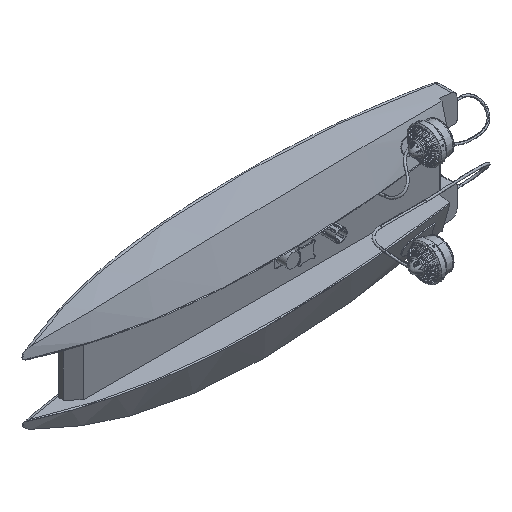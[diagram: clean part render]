
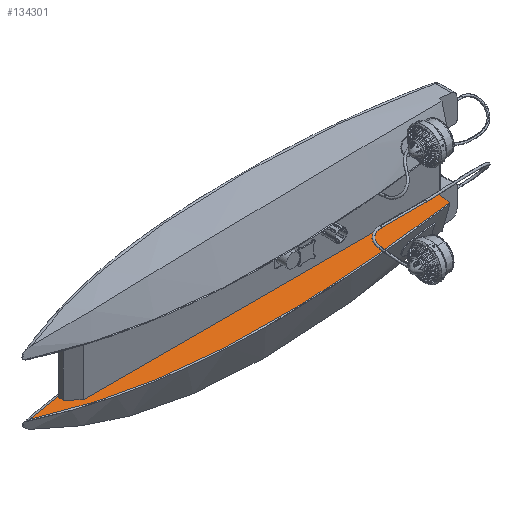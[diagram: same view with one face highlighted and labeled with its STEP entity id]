
A CAD part, isometric view. The second image highlights one B-rep face of the part: STEP entity #134301.
In plain terms, the highlighted planar face has unit normal (0, 0, 1) as drawn and (0, -1, 0) by its records, which use the part's own axes.
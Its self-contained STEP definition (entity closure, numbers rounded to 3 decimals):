
#726 = CARTESIAN_POINT ( 'NONE',  ( -230.344, 80., -195.848 ) ) ;
#1461 = CARTESIAN_POINT ( 'NONE',  ( -382.059, 80., -172.819 ) ) ;
#2543 = PLANE ( 'NONE',  #55681 ) ;
#2984 = CARTESIAN_POINT ( 'NONE',  ( -457.267, 80., -154.829 ) ) ;
#3386 = ORIENTED_EDGE ( 'NONE', *, *, #59438, .T. ) ;
#4297 = CARTESIAN_POINT ( 'NONE',  ( -525., 80., -81.869 ) ) ;
#10684 = ORIENTED_EDGE ( 'NONE', *, *, #86064, .F. ) ;
#11415 = CARTESIAN_POINT ( 'NONE',  ( 585.942, 80., -162.903 ) ) ;
#13741 = CARTESIAN_POINT ( 'NONE',  ( -627.464, 80., -95.349 ) ) ;
#14494 = CARTESIAN_POINT ( 'NONE',  ( 229.211, 80., -199.608 ) ) ;
#14803 = FACE_OUTER_BOUND ( 'NONE', #39850, .T. ) ;
#16169 = VERTEX_POINT ( 'NONE', #40028 ) ;
#20633 = LINE ( 'NONE', #89016, #80492 ) ;
#22952 = CARTESIAN_POINT ( 'NONE',  ( 484.24, 80., -175.795 ) ) ;
#23068 = CARTESIAN_POINT ( 'NONE',  ( -646.959, 80., -124.995 ) ) ;
#24459 = VERTEX_POINT ( 'NONE', #69909 ) ;
#28456 = ORIENTED_EDGE ( 'NONE', *, *, #81129, .F. ) ;
#29671 = CARTESIAN_POINT ( 'NONE',  ( -627.464, 80., -95.349 ) ) ;
#34709 = EDGE_CURVE ( 'NONE', #59181, #92244, #20633, .T. ) ;
#35906 = CARTESIAN_POINT ( 'NONE',  ( -531.241, 80., -132.461 ) ) ;
#39850 = EDGE_LOOP ( 'NONE', ( #82385, #3386, #90777, #10684, #28456, #96716, #112717 ) ) ;
#40028 = CARTESIAN_POINT ( 'NONE',  ( -525., 80., -81.869 ) ) ;
#40454 = CARTESIAN_POINT ( 'NONE',  ( -627.464, 80., -95.349 ) ) ;
#43045 = CARTESIAN_POINT ( 'NONE',  ( -472.938, 80., -70.968 ) ) ;
#45806 = CARTESIAN_POINT ( 'NONE',  ( -493.66, 80., -124.995 ) ) ;
#46652 = CARTESIAN_POINT ( 'NONE',  ( 331.381, 80., -191.812 ) ) ;
#47427 = CARTESIAN_POINT ( 'NONE',  ( -128.68, 80., -203.85 ) ) ;
#48193 = CARTESIAN_POINT ( 'NONE',  ( -567.698, 80., -119.521 ) ) ;
#48982 = CARTESIAN_POINT ( 'NONE',  ( -432.319, 80., -161.261 ) ) ;
#50829 = CARTESIAN_POINT ( 'NONE',  ( -646.959, 80., -288.319 ) ) ;
#51296 = CARTESIAN_POINT ( 'NONE',  ( -472.938, 80., -70.968 ) ) ;
#51751 = VECTOR ( 'NONE', #82153, 1000. ) ;
#55681 = AXIS2_PLACEMENT_3D ( 'NONE', #50829, #109299, #86200 ) ;
#57193 = VERTEX_POINT ( 'NONE', #45806 ) ;
#58315 = LINE ( 'NONE', #116780, #51751 ) ;
#59181 = VERTEX_POINT ( 'NONE', #89954 ) ;
#59438 = EDGE_CURVE ( 'NONE', #90301, #92244, #97530, .T. ) ;
#59776 = CARTESIAN_POINT ( 'NONE',  ( -603.722, 80., -105.432 ) ) ;
#60520 = CARTESIAN_POINT ( 'NONE',  ( -506.73, 80., -140.437 ) ) ;
#60628 = B_SPLINE_CURVE_WITH_KNOTS ( 'NONE', 3,
 ( #51296, #74378, #108235, #40454 ),
 .UNSPECIFIED., .F., .F.,
 ( 4, 4 ),
 ( 0., 0.156 ),
 .UNSPECIFIED. ) ;
#61299 = CARTESIAN_POINT ( 'NONE',  ( 254.769, 80., -197.825 ) ) ;
#64826 = CARTESIAN_POINT ( 'NONE',  ( -525., 80., -96.214 ) ) ;
#67088 = CARTESIAN_POINT ( 'NONE',  ( -493.66, 80., -124.995 ) ) ;
#69771 = CARTESIAN_POINT ( 'NONE',  ( 535.111, 80., -169.572 ) ) ;
#69909 = CARTESIAN_POINT ( 'NONE',  ( -472.938, 80., -70.968 ) ) ;
#72336 = CARTESIAN_POINT ( 'NONE',  ( 585.942, 80., -162.903 ) ) ;
#72830 = CARTESIAN_POINT ( 'NONE',  ( -482.108, 80., -148.02 ) ) ;
#74378 = CARTESIAN_POINT ( 'NONE',  ( -524.816, 80., -76.774 ) ) ;
#78654 = CARTESIAN_POINT ( 'NONE',  ( -509.899, 80., -111.422 ) ) ;
#80492 = VECTOR ( 'NONE', #102059, 1000. ) ;
#81129 = EDGE_CURVE ( 'NONE', #107317, #57193, #108275, .T. ) ;
#82153 = DIRECTION ( 'NONE',  ( 0., 0., -1. ) ) ;
#82385 = ORIENTED_EDGE ( 'NONE', *, *, #93245, .T. ) ;
#83604 = CARTESIAN_POINT ( 'NONE',  ( -615.633, 80., -100.483 ) ) ;
#84431 = EDGE_CURVE ( 'NONE', #16169, #107317, #58315, .T. ) ;
#86064 = EDGE_CURVE ( 'NONE', #57193, #59181, #116088, .T. ) ;
#86200 = DIRECTION ( 'NONE',  ( 0., 0., 1. ) ) ;
#89016 = CARTESIAN_POINT ( 'NONE',  ( 594.053, 80., -122.739 ) ) ;
#89954 = CARTESIAN_POINT ( 'NONE',  ( 593.597, 80., -124.995 ) ) ;
#90301 = VERTEX_POINT ( 'NONE', #29671 ) ;
#90777 = ORIENTED_EDGE ( 'NONE', *, *, #34709, .F. ) ;
#92244 = VERTEX_POINT ( 'NONE', #72336 ) ;
#93245 = EDGE_CURVE ( 'NONE', #24459, #90301, #60628, .T. ) ;
#95160 = CARTESIAN_POINT ( 'NONE',  ( -204.96, 80., -198.3 ) ) ;
#95927 = CARTESIAN_POINT ( 'NONE',  ( -52.217, 80., -206.811 ) ) ;
#96716 = ORIENTED_EDGE ( 'NONE', *, *, #84431, .F. ) ;
#97530 = B_SPLINE_CURVE_WITH_KNOTS ( 'NONE', 3,
 ( #13741, #83604, #59776, #131226, #48193, #128965, #35906, #60520, #72830, #2984, #48982, #118238, #1461, #117451, #116699, #128224, #726, #95160, #142043, #47427, #129708, #95927, #139785, #130485, #142799, #119765, #14494, #61299, #46652, #105171, #22952, #69771, #11415 ),
 .UNSPECIFIED., .F., .F.,
 ( 4, 2, 2, 2, 1, 2, 2, 2, 2, 2, 2, 2, 2, 2, 2, 2, 4 ),
 ( 0., 0.039, 0.077, 0.116, 0.155, 0.193, 0.232, 0.309, 0.387, 0.464, 0.542, 0.619, 0.774, 0.851, 0.928, 1.083, 1.238 ),
 .UNSPECIFIED. ) ;
#102059 = DIRECTION ( 'NONE',  ( -0.198, 0., -0.98 ) ) ;
#105171 = CARTESIAN_POINT ( 'NONE',  ( 382.375, 80., -186.915 ) ) ;
#105780 = EDGE_CURVE ( 'NONE', #24459, #16169, #117838, .T. ) ;
#106277 = VECTOR ( 'NONE', #142932, 1000. ) ;
#107317 = VERTEX_POINT ( 'NONE', #148078 ) ;
#108235 = CARTESIAN_POINT ( 'NONE',  ( -576.366, 80., -84.641 ) ) ;
#108275 = B_SPLINE_CURVE_WITH_KNOTS ( 'NONE', 2,
 ( #64826, #78654, #67088 ),
 .UNSPECIFIED., .F., .F.,
 ( 3, 3 ),
 ( 0., 0.184 ),
 .UNSPECIFIED. ) ;
#109299 = DIRECTION ( 'NONE',  ( 0., 1., 0. ) ) ;
#112717 = ORIENTED_EDGE ( 'NONE', *, *, #105780, .F. ) ;
#116088 = LINE ( 'NONE', #23068, #106277 ) ;
#116699 = CARTESIAN_POINT ( 'NONE',  ( -306.336, 80., -186.241 ) ) ;
#116780 = CARTESIAN_POINT ( 'NONE',  ( -525., 80., -96.214 ) ) ;
#117451 = CARTESIAN_POINT ( 'NONE',  ( -356.849, 80., -177.741 ) ) ;
#117838 = B_SPLINE_CURVE_WITH_KNOTS ( 'NONE', 2,
 ( #43045, #132560, #4297 ),
 .UNSPECIFIED., .F., .F.,
 ( 3, 3 ),
 ( 0.829, 1. ),
 .UNSPECIFIED. ) ;
#118238 = CARTESIAN_POINT ( 'NONE',  ( -419.791, 80., -164.288 ) ) ;
#119765 = CARTESIAN_POINT ( 'NONE',  ( 178.05, 80., -202.671 ) ) ;
#128224 = CARTESIAN_POINT ( 'NONE',  ( -281.032, 80., -189.82 ) ) ;
#128965 = CARTESIAN_POINT ( 'NONE',  ( -543.444, 80., -128.275 ) ) ;
#129708 = CARTESIAN_POINT ( 'NONE',  ( -77.724, 80., -206.103 ) ) ;
#130485 = CARTESIAN_POINT ( 'NONE',  ( 75.56, 80., -206.952 ) ) ;
#131226 = CARTESIAN_POINT ( 'NONE',  ( -579.753, 80., -114.952 ) ) ;
#132560 = CARTESIAN_POINT ( 'NONE',  ( -499.04, 80., -75.935 ) ) ;
#134301 = ADVANCED_FACE ( 'NONE', ( #14803 ), #2543, .F. ) ;
#139785 = CARTESIAN_POINT ( 'NONE',  ( 24.385, 80., -207.802 ) ) ;
#142043 = CARTESIAN_POINT ( 'NONE',  ( -154.128, 80., -202.303 ) ) ;
#142799 = CARTESIAN_POINT ( 'NONE',  ( 152.445, 80., -203.953 ) ) ;
#142932 = DIRECTION ( 'NONE',  ( 1., 0., 0. ) ) ;
#148078 = CARTESIAN_POINT ( 'NONE',  ( -525., 80., -96.214 ) ) ;
